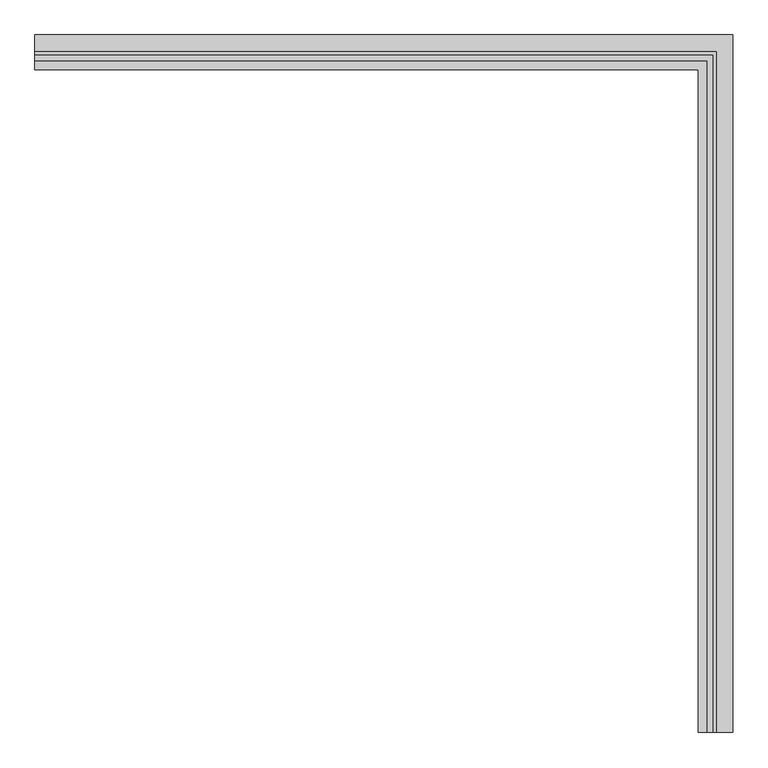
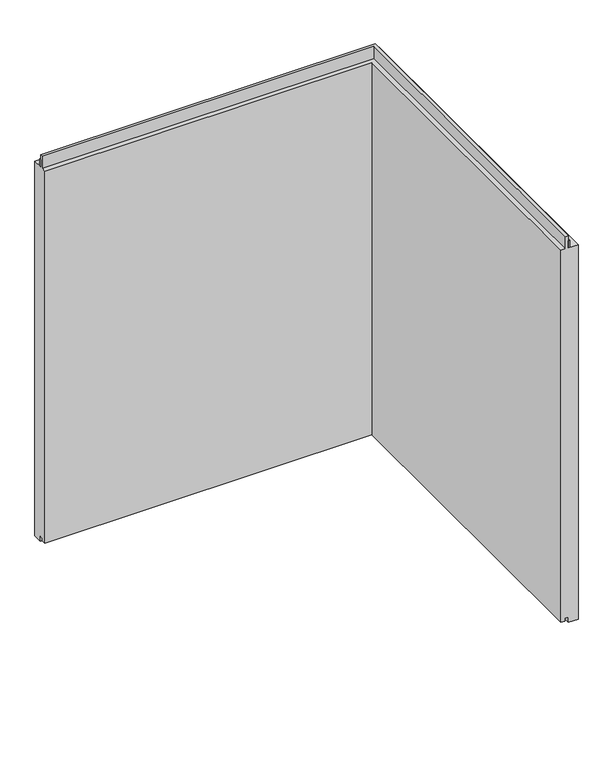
"""IFC4 building model written with IfcOpenShell, lengths in millimetres: plate geometry, Trimo_Qbiss Screen_L Corner Panel-HORIZONTAL : HR - B."""

from ifc_helpers import new_model, si_unit, frame, origin, place, context, project, spatial, polyline, outline, extrude, faceted_brep, source, transform, mapped, element, save


def plate_6f84e525(model_context):
    return source(origin(), model_context, "Body", "SolidModel", [
        extrude(outline(polyline([(-443.75, 71.0), (-443.75, 76.0), (532.25, 76.0), (532.25, -900.0), (527.25, -900.0), (527.25, 71.0), (-443.75, 71.0)])), frame((0.0, 0.0, 1150.5), z_axis=(0.0, 0.0, 1.0), x_axis=(1.0, 0.0, 0.0)), (0.0, 0.0, 1.0), 21.0),
        faceted_brep([(-443.75, 71.0, 1149.5), (-443.75, 100.0, 1149.5), (-443.75, 100.0, 0.0), (-443.75, 72.0, 0.0), (-443.75, 72.0, 15.5), (-443.75, 62.0, 15.5), (-443.75, 62.0, 7.0), (-443.75, 50.0, 7.0), (-443.75, 50.0, 1149.5), (-443.75, 63.0, 1149.5), (-443.75, 63.0, 1187.0), (-443.75, 71.0, 1187.0), (527.25, 71.0, 1149.5), (527.25, -900.0, 1149.5), (556.25, -900.0, 1149.5), (556.25, 100.0, 1149.5), (556.25, 100.0, 0.0), (556.25, -900.0, 0.0), (528.25, -900.0, 0.0), (528.25, 72.0, 0.0), (528.25, 72.0, 15.5), (528.25, -900.0, 15.5), (518.25, -900.0, 15.5), (518.25, 62.0, 15.5), (518.25, 62.0, 7.0), (518.25, -900.0, 7.0), (506.25, -900.0, 7.0), (506.25, 50.0, 7.0), (506.25, 50.0, 1149.5), (506.25, -900.0, 1149.5), (519.25, -900.0, 1149.5), (519.25, 63.0, 1149.5), (519.25, 63.0, 1187.0), (519.25, -900.0, 1187.0), (527.25, -900.0, 1187.0), (527.25, 71.0, 1187.0)], [[[0, 1, 2, 3, 4, 5, 6, 7, 8, 9, 10, 11]], [[1, 0, 12, 13, 14, 15]], [[2, 1, 15, 16]], [[3, 2, 16, 17, 18, 19]], [[4, 3, 19, 20]], [[5, 4, 20, 21, 22, 23]], [[6, 5, 23, 24]], [[7, 6, 24, 25, 26, 27]], [[8, 7, 27, 28]], [[9, 8, 28, 29, 30, 31]], [[10, 9, 31, 32]], [[11, 10, 32, 33, 34, 35]], [[0, 11, 35, 12]], [[13, 34, 33, 30, 29, 26, 25, 22, 21, 18, 17, 14]], [[16, 15, 14, 17]], [[20, 19, 18, 21]], [[24, 23, 22, 25]], [[28, 27, 26, 29]], [[32, 31, 30, 33]], [[12, 35, 34, 13]]]),
    ])


if __name__ == "__main__":
    model = new_model("IFC4")
    model_context = context("Model", 3, world=origin())
    ifc_project = project(units=[si_unit("LENGTHUNIT", "METRE", prefix="MILLI")], contexts=[model_context])
    site = spatial("IfcSite", under=ifc_project)
    building = spatial("IfcBuilding", under=site)
    placement = place(None, origin())
    plate_shape = plate_6f84e525(model_context)
    element("IfcPlate", 1, ObjectType="Trimo_Qbiss Screen_L Corner Panel-HORIZONTAL : HR - B", at=placement, inside=building, context=model_context, shape_type="MappedRepresentation", body=[
        mapped(plate_shape, transform((0.0, 0.0, 0.0), x_axis=(1.0, 0.0, 0.0), y_axis=(0.0, 1.0, 0.0), z_axis=(0.0, 0.0, 1.0))),
    ])
    save(model, "model.ifc")
